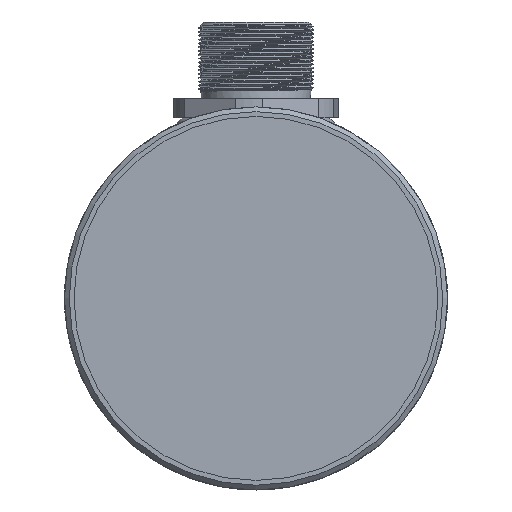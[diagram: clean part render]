
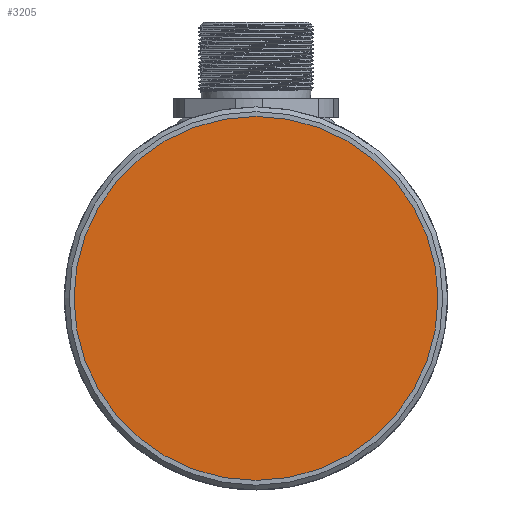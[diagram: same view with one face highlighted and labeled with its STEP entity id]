
A CAD part, left-side view. The second image highlights one B-rep face of the part: STEP entity #3205.
In plain terms, the highlighted planar face has unit normal (-1, 0, 0).
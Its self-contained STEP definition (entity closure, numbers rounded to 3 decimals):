
#842=CIRCLE('',#3407,19.);
#935=VERTEX_POINT('',#4162);
#1476=EDGE_CURVE('',#935,#935,#842,.T.);
#1898=ORIENTED_EDGE('',*,*,#1476,.T.);
#2721=EDGE_LOOP('',(#1898));
#2964=FACE_BOUND('',#2721,.T.);
#3205=ADVANCED_FACE('',(#2964),#19073,.T.);
#3407=AXIS2_PLACEMENT_3D('',#4161,#3643,#3644);
#3409=AXIS2_PLACEMENT_3D('',#4165,#3647,$);
#3643=DIRECTION('',(-1.,0.,0.));
#3644=DIRECTION('',(0.,0.,19.));
#3647=DIRECTION('',(-1.,0.,0.));
#4161=CARTESIAN_POINT('',(1.,0.,0.));
#4162=CARTESIAN_POINT('',(1.,0.,19.));
#4165=CARTESIAN_POINT('',(1.,0.,0.));
#19073=PLANE('',#3409);
